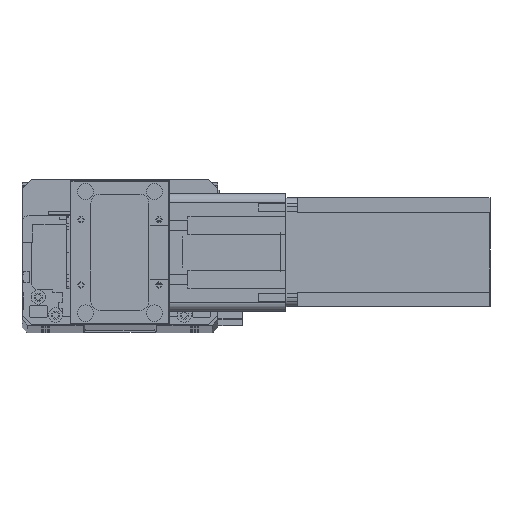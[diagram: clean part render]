
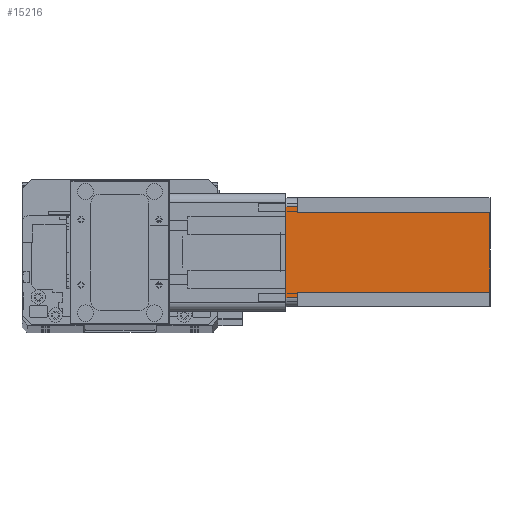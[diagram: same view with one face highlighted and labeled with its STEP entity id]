
A CAD part, top view. The second image highlights one B-rep face of the part: STEP entity #15216.
In plain terms, the highlighted planar face has unit normal (0, 0, 1) as drawn and (0, 1, 0) by its records, which use the part's own axes.
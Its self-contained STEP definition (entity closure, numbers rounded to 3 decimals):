
#37 = CARTESIAN_POINT ( 'NONE',  ( 8., 60., -6.5 ) ) ;
#211 = AXIS2_PLACEMENT_3D ( 'NONE', #19467, #5269, #21866 ) ;
#314 = EDGE_CURVE ( 'NONE', #28242, #22479, #9056, .T. ) ;
#492 = PLANE ( 'NONE',  #211 ) ;
#641 = LINE ( 'NONE', #5436, #25105 ) ;
#1829 = DIRECTION ( 'NONE',  ( -1., 0., 0. ) ) ;
#2292 = CARTESIAN_POINT ( 'NONE',  ( 5., 60., -6.5 ) ) ;
#2405 = VECTOR ( 'NONE', #11693, 1000. ) ;
#2433 = CARTESIAN_POINT ( 'NONE',  ( 55., 60., 0. ) ) ;
#2555 = EDGE_LOOP ( 'NONE', ( #14216, #7598, #17343, #23654, #17205, #23135, #9879, #22187 ) ) ;
#3043 = VECTOR ( 'NONE', #30548, 1000. ) ;
#3557 = EDGE_CURVE ( 'NONE', #16722, #8101, #21484, .T. ) ;
#4473 = DIRECTION ( 'NONE',  ( 0., 0., 1. ) ) ;
#4594 = FACE_OUTER_BOUND ( 'NONE', #2555, .T. ) ;
#4672 = LINE ( 'NONE', #15308, #22805 ) ;
#5024 = CARTESIAN_POINT ( 'NONE',  ( 5., 60., 0. ) ) ;
#5269 = DIRECTION ( 'NONE',  ( 0., 1., 0. ) ) ;
#5436 = CARTESIAN_POINT ( 'NONE',  ( 8., 60., -112.5 ) ) ;
#6476 = CARTESIAN_POINT ( 'NONE',  ( 0., 60., -112.5 ) ) ;
#7588 = VECTOR ( 'NONE', #27120, 1000. ) ;
#7598 = ORIENTED_EDGE ( 'NONE', *, *, #19122, .T. ) ;
#7892 = EDGE_CURVE ( 'NONE', #28242, #22333, #27138, .T. ) ;
#8038 = VERTEX_POINT ( 'NONE', #37 ) ;
#8039 = VERTEX_POINT ( 'NONE', #2433 ) ;
#8101 = VERTEX_POINT ( 'NONE', #5024 ) ;
#8694 = LINE ( 'NONE', #16392, #2405 ) ;
#8864 = VECTOR ( 'NONE', #4473, 1000. ) ;
#9056 = LINE ( 'NONE', #24877, #7588 ) ;
#9879 = ORIENTED_EDGE ( 'NONE', *, *, #18720, .T. ) ;
#10222 = CARTESIAN_POINT ( 'NONE',  ( 52., 60., -112.5 ) ) ;
#11397 = CARTESIAN_POINT ( 'NONE',  ( 8., 60., -112.5 ) ) ;
#11693 = DIRECTION ( 'NONE',  ( 1., 0., 0. ) ) ;
#12146 = DIRECTION ( 'NONE',  ( 0., 0., -1. ) ) ;
#12700 = EDGE_CURVE ( 'NONE', #8038, #22333, #641, .T. ) ;
#13405 = CARTESIAN_POINT ( 'NONE',  ( 55., 60., -6.5 ) ) ;
#14216 = ORIENTED_EDGE ( 'NONE', *, *, #27029, .F. ) ;
#15216 = ADVANCED_FACE ( 'NONE', ( #4594 ), #492, .T. ) ;
#15308 = CARTESIAN_POINT ( 'NONE',  ( 8., 60., -6.5 ) ) ;
#16392 = CARTESIAN_POINT ( 'NONE',  ( 52., 60., -6.5 ) ) ;
#16722 = VERTEX_POINT ( 'NONE', #2292 ) ;
#17205 = ORIENTED_EDGE ( 'NONE', *, *, #7892, .T. ) ;
#17343 = ORIENTED_EDGE ( 'NONE', *, *, #25087, .F. ) ;
#18720 = EDGE_CURVE ( 'NONE', #8038, #16722, #4672, .T. ) ;
#19122 = EDGE_CURVE ( 'NONE', #8039, #24333, #19464, .T. ) ;
#19464 = LINE ( 'NONE', #28683, #24269 ) ;
#19467 = CARTESIAN_POINT ( 'NONE',  ( 0., 60., -112.5 ) ) ;
#20887 = VECTOR ( 'NONE', #1829, 1000. ) ;
#21484 = LINE ( 'NONE', #28023, #8864 ) ;
#21866 = DIRECTION ( 'NONE',  ( 0., 0., 1. ) ) ;
#21948 = LINE ( 'NONE', #28211, #3043 ) ;
#22187 = ORIENTED_EDGE ( 'NONE', *, *, #3557, .T. ) ;
#22333 = VERTEX_POINT ( 'NONE', #11397 ) ;
#22479 = VERTEX_POINT ( 'NONE', #26309 ) ;
#22805 = VECTOR ( 'NONE', #29437, 1000. ) ;
#23135 = ORIENTED_EDGE ( 'NONE', *, *, #12700, .F. ) ;
#23654 = ORIENTED_EDGE ( 'NONE', *, *, #314, .F. ) ;
#24269 = VECTOR ( 'NONE', #12146, 1000. ) ;
#24333 = VERTEX_POINT ( 'NONE', #13405 ) ;
#24877 = CARTESIAN_POINT ( 'NONE',  ( 52., 60., -112.5 ) ) ;
#25087 = EDGE_CURVE ( 'NONE', #22479, #24333, #8694, .T. ) ;
#25105 = VECTOR ( 'NONE', #26737, 1000. ) ;
#26309 = CARTESIAN_POINT ( 'NONE',  ( 52., 60., -6.5 ) ) ;
#26737 = DIRECTION ( 'NONE',  ( 0., 0., -1. ) ) ;
#27029 = EDGE_CURVE ( 'NONE', #8039, #8101, #21948, .T. ) ;
#27120 = DIRECTION ( 'NONE',  ( 0., 0., 1. ) ) ;
#27138 = LINE ( 'NONE', #6476, #20887 ) ;
#28023 = CARTESIAN_POINT ( 'NONE',  ( 5., 60., -112.5 ) ) ;
#28211 = CARTESIAN_POINT ( 'NONE',  ( 0., 60., 0. ) ) ;
#28242 = VERTEX_POINT ( 'NONE', #10222 ) ;
#28683 = CARTESIAN_POINT ( 'NONE',  ( 55., 60., -112.5 ) ) ;
#29437 = DIRECTION ( 'NONE',  ( -1., 0., 0. ) ) ;
#30548 = DIRECTION ( 'NONE',  ( -1., 0., 0. ) ) ;
